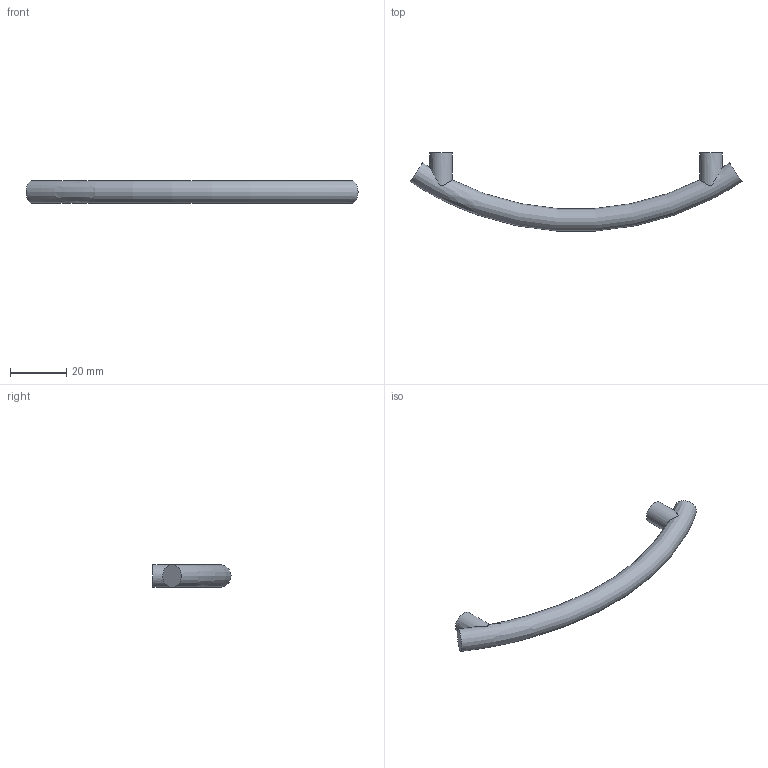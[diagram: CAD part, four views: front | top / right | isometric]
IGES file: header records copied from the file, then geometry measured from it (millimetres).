
Start section: Data from Parasolid IGES Translator 15.0.47, Copyright(c) 2006 Siemens P LM Software. All Rights Reserved.
Global section: file name: 9070487.igs; native system:  By UGS Corp.; preprocessor: XPlus GENERIC/IGES 3.0; author: Noname; organization: Noname; date: 20140122.153523; units: millimetre
Bounding box: 118 x 27.77 x 8 mm (x, y, z)
Surface area: 3725.6 mm2 (no closed solid volume)
Topology: 0 solids, 0 shells, 15 faces, 66 edges, 58 vertices
Faces by surface type: extrusion 10, revolution 5
